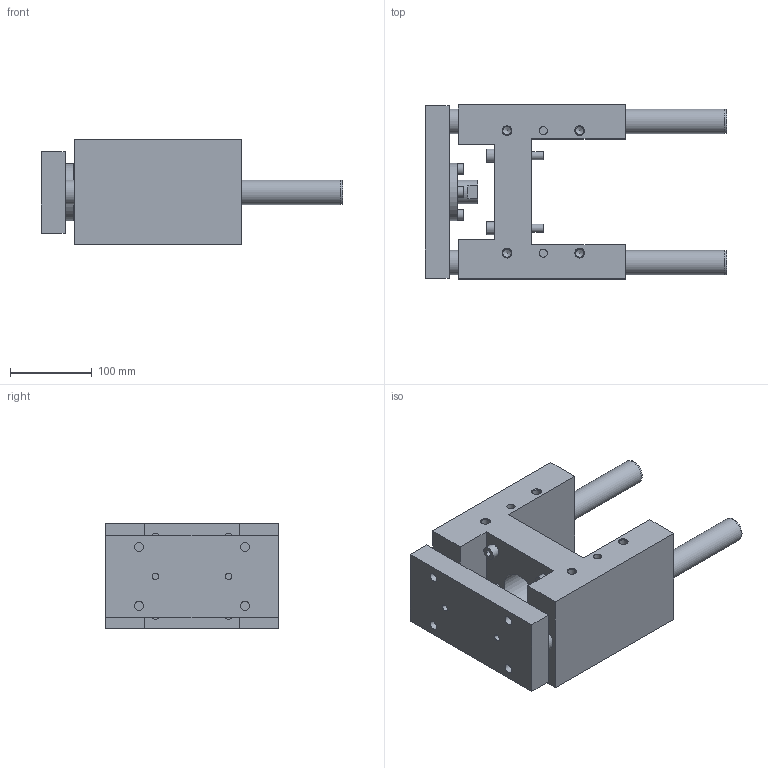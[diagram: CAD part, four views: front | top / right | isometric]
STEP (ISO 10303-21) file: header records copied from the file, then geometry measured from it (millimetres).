
FILE_DESCRIPTION( ( 'STEP AP214' ), '1' );
FILE_NAME( 'U:/Etudes/Top Solid/BIBLIO 3D AVM/TOP/PNEUMATIQUE/GUIDAGES/Type 32 (en H)/R_Renforcée/329R2130.step', '2005-05-27T09:18:41', ( ' ' ), ( ' ' ), 'XStep 1.0', ' ', ' ' );
FILE_SCHEMA( ( 'automotive_design' ) );
Length unit declared in the file: metre
Products named in the file (2): 1; 2
Bounding box: 369 x 213 x 129 mm (x, y, z)
Volume: 3736206.7 mm3; surface area: 400430.3 mm2
Topology: 2 solids, 7 shells, 207 faces, 460 edges, 303 vertices
Faces by surface type: plane 118, cylinder 68, cone 21
Full cylindrical faces by diameter (mm): 8 x10, 8.5 x4, 10 x10, 10.106 x12, 11 x8, 13 x4, 16 x4, 18 x4, 18.376 x2, 29 x1, 30 x4, 32 x1, 42 x1, 45 x1, 55 x1, 70 x1
Entity records: 6989 total; most frequent: CARTESIAN_POINT 1089, DIRECTION 880, ORIENTED_EDGE 678, EDGE_LOOP 360, AXIS2_PLACEMENT_3D 340, EDGE_CURVE 339, VERTEX_POINT 277, FACE_OUTER_BOUND 275
